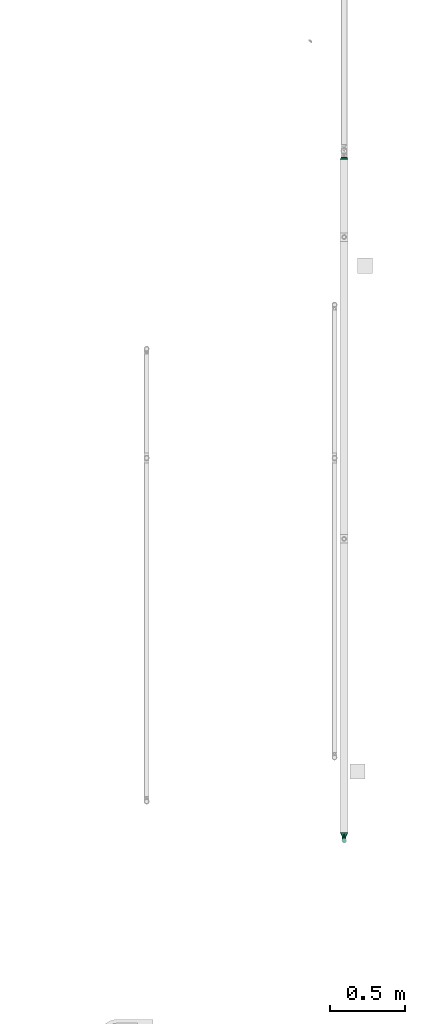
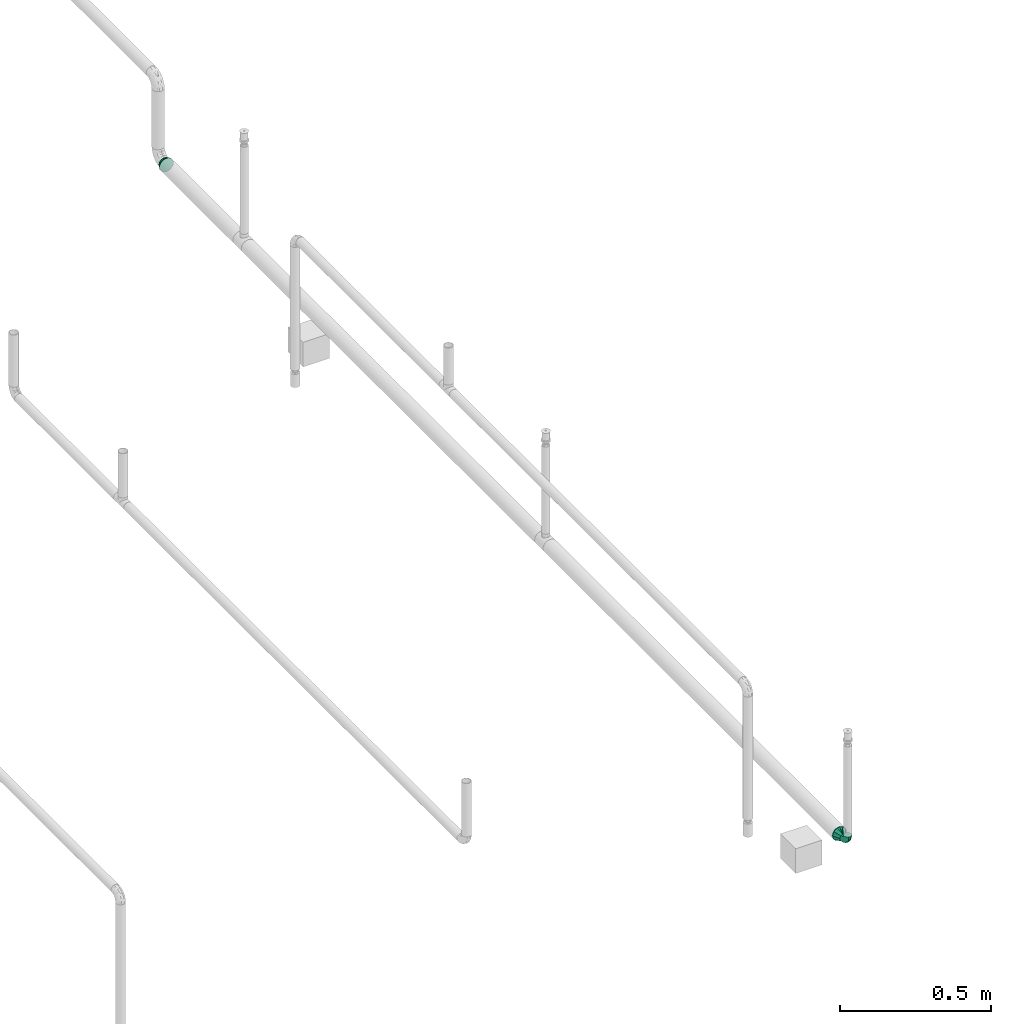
# One storey, part 89 of 95: 3 flow fittings.
"""IFC2X3 building model written with IfcOpenShell, lengths in millimetres."""

from ifc_helpers import new_model, entity, si_unit, converted_unit, derived_unit, direction, frame, origin_with_axes, place, context, subcontext, project, spatial, open_shell, surface_model, source, transform, mapped, type_object, element, save


model = new_model("IFC2X3")

# Units and contexts
model_context = context("Model", 3, precision=0.01, world=frame((0.0, 4.29681676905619e-09, 0.0)), true_north=direction((4.01073788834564e-13, 1.0)))
plan_context = context("Plan", 3, precision=0.01, world=frame((0.0, 4.29681676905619e-09, 0.0)), true_north=direction((4.01073788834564e-13, 1.0)))
body_context = subcontext(model_context, "Body", "Model", "MODEL_VIEW")
ifc_project = project(units=[converted_unit("PLANEANGLEUNIT", "DEGREE", entity("IfcPositiveLengthMeasure", 0.0174532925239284), si_unit("PLANEANGLEUNIT", "RADIAN"), dimensions=[0, 0, 0, 0, 0, 0, 0]), si_unit("AREAUNIT", "SQUARE_METRE"), si_unit("LENGTHUNIT", "METRE", prefix="MILLI"), si_unit("MASSUNIT", "GRAM", prefix="KILO"), si_unit("POWERUNIT", "WATT"), si_unit("PRESSUREUNIT", "PASCAL"), si_unit("FORCEUNIT", "NEWTON", prefix="KILO"), si_unit("ELECTRICVOLTAGEUNIT", "VOLT"), si_unit("ELECTRICCURRENTUNIT", "AMPERE"), si_unit("THERMODYNAMICTEMPERATUREUNIT", "DEGREE_CELSIUS"), si_unit("TIMEUNIT", "SECOND"), si_unit("VOLUMEUNIT", "CUBIC_METRE"), derived_unit("LINEARVELOCITYUNIT", [(si_unit("LENGTHUNIT", "METRE"), 1), (si_unit("TIMEUNIT", "SECOND"), -1)]), derived_unit("VOLUMETRICFLOWRATEUNIT", [(si_unit("VOLUMEUNIT", "CUBIC_METRE"), 1), (si_unit("TIMEUNIT", "SECOND"), -1)]), derived_unit("THERMALTRANSMITTANCEUNIT", [(si_unit("POWERUNIT", "WATT"), 1), (si_unit("THERMODYNAMICTEMPERATUREUNIT", "KELVIN"), -1), (si_unit("AREAUNIT", "SQUARE_METRE"), -1)]), derived_unit("SOUNDPRESSUREUNIT", [(si_unit("PRESSUREUNIT", "PASCAL"), 1)])], contexts=[model_context, plan_context])

# Site, building, storey
site_placement = place(None, frame((0.0, -4.29681676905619e-09, 0.0), z_axis=(0.0, 0.0, 1.0), x_axis=(1.0, 0.0, 0.0)))
site = spatial("IfcSite", under=ifc_project, at=site_placement, CompositionType="ELEMENT")
building_placement = place(site_placement, frame((0.0, 4.29681676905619e-09, 0.0), z_axis=(0.0, 0.0, 1.0), x_axis=(1.0, 0.0, 0.0)))
building = spatial("IfcBuilding", under=site, at=building_placement, Name="mc-building", CompositionType="ELEMENT")
storey_placement = place(building_placement, frame((0.0, 0.0, 210900.0), z_axis=(0.0, 0.0, 1.0), x_axis=(1.0, 0.0, 0.0)))
storey = spatial("IfcBuildingStorey", under=building, at=storey_placement, Name="Nivå F", CompositionType="ELEMENT", Elevation=210900.0)

# Flow fittings
pipe_fitting_type_1 = type_object("IfcPipeFittingType", Name="magi_pipe_fe_elbow_short_001", PredefinedType="BEND")
shared_shape_1 = source(origin_with_axes(), body_context, "Body", "SurfaceModel", [
    surface_model("IfcShellBasedSurfaceModel", [(-28.0, 3.62347, -13.52296), (-28.0, 0.0, -14.0), (-28.0, 13.52296, -3.62347), (-28.0, 7.0, -12.12436), (-28.0, 9.89949, -9.89949), (-28.0, 12.12436, -7.0), (-28.0, -9.89949, 9.89949), (-28.0, -13.52296, -3.62347), (-28.0, -7.0, -12.12436), (-28.0, -9.89949, -9.89949), (-28.0, -3.62347, -13.52296), (-28.0, -12.12436, -7.0), (-28.0, -14.0, 0.0), (-28.0, -13.52296, 3.62347), (-28.0, 13.52296, 3.62347), (-28.0, 14.0, 0.0), (-28.0, 3.62347, 13.52296), (-28.0, 12.12436, 7.0), (-28.0, 9.89949, 9.89949), (-28.0, 7.0, 12.12436), (-28.0, 0.0, 14.0), (-28.0, -12.12436, 7.0), (-28.0, -3.62347, 13.52296), (-28.0, -7.0, 12.12436), (-13.52296, 28.0, -3.62347), (0.0, 28.0, -14.0), (-3.62347, 28.0, -13.52296), (-9.89949, 28.0, -9.89949), (-7.0, 28.0, -12.12436), (-12.12436, 28.0, -7.0), (13.52296, 28.0, -3.62347), (-9.89949, 28.0, 9.89949), (3.62347, 28.0, -13.52296), (9.89949, 28.0, -9.89949), (7.0, 28.0, -12.12436), (12.12436, 28.0, -7.0), (13.52296, 28.0, 3.62347), (14.0, 28.0, 0.0), (-13.52296, 28.0, 3.62347), (-12.12436, 28.0, 7.0), (-7.0, 28.0, 12.12436), (-3.62347, 28.0, 13.52296), (9.89949, 28.0, 9.89949), (0.0, 28.0, 14.0), (12.12436, 28.0, 7.0), (7.0, 28.0, 12.12436), (3.62347, 28.0, 13.52296), (-14.0, 28.0, 0.0), (-18.74729, -12.24672, 4.38175), (-20.4978, -10.87112, 7.8554), (-14.63098, -10.41778, 0.0), (-11.36869, -10.18884, 3.09687), (5.89274, 4.32805, 4.24468), (3.06694, 4.04075, 8.35629), (-0.17293, -0.734, 7.21134), (-12.21635, -8.85831, 7.04954), (-3.77138, -5.46958, 4.31404), (-21.31549, -12.20889, 0.0), (6.34939, 11.25924, 9.57712), (8.06481, 18.3168, 10.42711), (3.37486, 10.81192, 11.64293), (-18.31681, -8.06481, 10.42711), (-20.56266, -5.29223, 12.59496), (-21.38752, -1.85462, 13.76057), (-19.60454, 2.14601, 13.97614), (-10.81192, -3.37486, 11.64293), (-13.93831, -0.12564, 13.56955), (-21.5811, 5.49074, 13.225), (-21.95612, 11.65158, 9.17996), (-20.05772, 14.63261, 6.40071), (-24.5084, 13.14639, 5.80116), (-14.41344, 20.50581, 6.33709), (-4.86565, 13.76759, 13.97488), (-10.37, 10.37, 13.65983), (-8.33631, 6.11788, 13.92788), (-14.75744, 15.63504, 9.91683), (-24.22185, 8.47816, 11.40754), (-3.65439, 9.37683, 13.74657), (-6.95631, 2.56833, 13.07318), (-1.43023, 7.56381, 12.86583), (-23.31553, 14.32852, 3.52781), (-21.69779, 16.61046, 0.0), (-5.22595, 24.14907, 13.1135), (-1.91876, 20.94202, 13.96561), (5.29223, 20.56266, 12.59496), (-4.80832, -3.33944, 8.67628), (-2.5008, 2.5008, 11.44619), (1.85462, 21.38752, 13.76057), (10.87112, 20.4978, 7.8554), (8.85831, 12.21635, 7.04954), (12.24672, 18.74729, 4.38175), (-11.25924, -6.34939, 9.57712), (-15.37363, 21.10999, 3.25616), (-19.14983, 16.6358, 3.33834), (10.18884, 11.36869, 3.09687), (10.41778, 14.63098, 0.0), (12.20889, 21.31549, 0.0), (-18.10051, 18.10051, 0.0), (8.37307, 7.0, 0.0), (-11.50288, 18.59955, 10.71326), (-8.84699, 21.68272, 11.60426), (-11.55739, 22.32322, 9.13967), (-10.58943, 15.13428, 12.47628), (-6.05474, 18.97034, 13.33304), (-14.9522, 12.56273, 11.63436), (-7.0, -8.37307, 0.0), (-15.38425, 5.99686, 13.74946), (-13.73768, 3.4306, 13.99403), (-14.88363, 9.49937, 12.94918), (-8.15523, 14.5327, 13.41132), (0.12564, 13.93831, 13.56955), (-19.27864, 9.50344, 11.78944), (-1.06605, 0.88351, 9.56863), (-3.83005, -4.31684, 6.58349), (-3.15673, -4.5298, 0.0), (1.6378, -1.17307, 3.37596), (-16.61046, 21.69779, 0.0), (4.5298, 3.15673, 0.0), (0.68653, -0.68653, 0.0), (-22.16307, 1.77021, -13.95443), (-12.1112, 20.49304, -9.34219), (-20.84882, -12.5942, -4.60988), (-21.54235, 5.49691, -13.22664), (-19.10898, 16.60593, -3.53067), (-11.43732, -3.53319, -11.74569), (-12.15681, -0.17464, -13.31564), (-5.62502, -0.23427, -11.47155), (-20.32556, 9.17949, -11.70878), (-22.13531, 11.60457, -9.16028), (8.41708, 20.6911, -10.6019), (-16.88435, 12.82951, -10.55878), (-11.13704, -10.24959, -2.34743), (-4.84185, -6.54661, -3.36137), (-12.96604, 16.27159, -10.78023), (-9.97005, 17.11892, -12.15817), (-12.93887, 12.93887, -12.29249), (-1.2334, -2.64201, -5.92074), (1.22973, 2.47088, -8.8979), (5.16596, 4.11707, -5.50974), (-13.82252, 8.10203, -13.53774), (-19.77353, -10.77046, -7.78839), (-20.6911, -8.41708, -10.6019), (-5.71492, 20.3686, -13.27579), (12.5942, 20.84882, -4.60988), (-23.64458, -5.51923, -12.7416), (-12.09227, -8.27186, -7.82819), (-10.45313, -5.71095, -9.79365), (0.58937, 6.57638, -11.67536), (0.17464, 12.15681, -13.31564), (2.89353, 11.95196, -12.23037), (-23.72828, 14.45075, -2.39672), (-13.72718, 22.21732, -6.10198), (-14.65489, 22.72001, -3.11815), (10.77046, 19.77353, -7.78839), (-4.94234, 4.94234, -13.21976), (-17.01297, 16.64546, -6.86733), (-1.77021, 22.16307, -13.95443), (-8.78719, 21.97882, -11.58143), (1.76523, 20.62648, -13.74402), (5.51923, 23.64458, -12.7416), (-20.62648, -1.76523, -13.74402), (-17.72962, -4.83155, -12.45127), (-3.30956, 15.42318, -13.99698), (-7.57019, 8.16927, -13.99205), (-8.28388, 13.27199, -13.5833), (-6.87455, -6.54348, -6.32219), (9.88737, 10.40056, -2.49707), (6.89392, 5.1145, -2.73992), (0.30381, -2.5875, -3.00478), (-22.38273, 13.76108, -5.90633), (9.77824, 12.19087, -5.31295), (8.70689, 13.51955, -8.04189), (5.71095, 10.45313, -9.79365), (4.83155, 17.72962, -12.45127), (-4.06757, -2.72494, -8.72853), (6.23857, 7.82545, -7.6266), (-15.42318, 3.30956, -13.99698), (-16.05025, 23.05025, 0.0), (-12.19087, -9.77824, -5.31295), (3.79914, 1.24839, -3.50098), (-15.61294, 15.85577, -9.08381)], [open_shell([[[0, 1, 2]], [[3, 0, 4]], [[2, 5, 4]], [[0, 2, 4]], [[6, 1, 7]], [[8, 9, 10]], [[9, 1, 10]], [[11, 7, 9]], [[9, 7, 1]], [[12, 13, 7]], [[2, 1, 6]], [[14, 15, 16]], [[17, 14, 18]], [[16, 19, 18]], [[14, 16, 18]], [[20, 16, 15]], [[21, 6, 13]], [[6, 7, 13]], [[22, 20, 23]], [[6, 23, 20]], [[2, 6, 20]], [[15, 2, 20]], [[24, 25, 26]], [[27, 26, 28]], [[27, 29, 24]], [[27, 24, 26]], [[30, 25, 31]], [[32, 33, 34]], [[32, 25, 33]], [[33, 30, 35]], [[25, 30, 33]], [[30, 36, 37]], [[31, 25, 24]], [[24, 38, 31]], [[31, 38, 39]], [[31, 40, 41]], [[31, 42, 30]], [[41, 43, 31]], [[36, 42, 44]], [[30, 42, 36]], [[45, 43, 46]], [[43, 45, 42]], [[31, 43, 42]], [[24, 47, 38]], [[48, 49, 21]], [[48, 50, 51]], [[52, 53, 54]], [[55, 51, 56]], [[49, 6, 21]], [[57, 48, 13]], [[58, 59, 60]], [[61, 23, 6]], [[61, 62, 23]], [[20, 63, 64]], [[62, 65, 66]], [[59, 42, 45]], [[20, 22, 63]], [[67, 19, 16]], [[68, 69, 70]], [[39, 38, 71]], [[72, 73, 74]], [[69, 68, 75]], [[20, 64, 16]], [[19, 76, 18]], [[17, 18, 68]], [[77, 78, 79]], [[80, 81, 15]], [[41, 82, 83]], [[45, 84, 59]], [[85, 86, 65]], [[46, 43, 87]], [[88, 89, 90]], [[91, 65, 61]], [[43, 41, 83]], [[71, 92, 93]], [[90, 94, 95]], [[84, 45, 46]], [[88, 90, 44]], [[59, 84, 60]], [[36, 44, 90]], [[75, 71, 69]], [[23, 62, 22]], [[90, 96, 36]], [[97, 81, 93]], [[94, 98, 95]], [[92, 97, 93]], [[50, 48, 57]], [[70, 14, 17]], [[99, 100, 101]], [[31, 101, 100]], [[40, 31, 100]], [[102, 103, 100]], [[103, 72, 83]], [[82, 100, 103]], [[82, 41, 40]], [[99, 104, 102]], [[15, 14, 80]], [[67, 16, 64]], [[51, 50, 105]], [[48, 21, 13]], [[49, 55, 61]], [[44, 42, 88]], [[89, 52, 94]], [[106, 107, 74]], [[108, 67, 106]], [[31, 39, 101]], [[109, 102, 73]], [[103, 109, 72]], [[87, 83, 110]], [[76, 68, 18]], [[68, 111, 104]], [[65, 62, 61]], [[63, 62, 66]], [[91, 61, 55]], [[65, 86, 78]], [[87, 84, 46]], [[110, 79, 60]], [[110, 60, 84]], [[86, 112, 60]], [[55, 49, 48]], [[61, 6, 49]], [[42, 59, 88]], [[89, 88, 59]], [[106, 67, 64]], [[76, 67, 111]], [[53, 52, 89]], [[112, 86, 85]], [[56, 113, 55]], [[112, 54, 53]], [[58, 89, 59]], [[56, 51, 105]], [[114, 115, 56]], [[14, 70, 80]], [[69, 71, 93]], [[47, 116, 92]], [[92, 116, 97]], [[39, 71, 101]], [[75, 101, 71]], [[99, 102, 100]], [[108, 104, 111]], [[106, 74, 73]], [[110, 83, 72]], [[78, 74, 66]], [[72, 74, 77]], [[83, 87, 43]], [[84, 87, 110]], [[62, 63, 22]], [[64, 63, 66]], [[13, 12, 57]], [[96, 90, 95]], [[96, 37, 36]], [[115, 117, 52]], [[56, 105, 114]], [[55, 48, 51]], [[89, 94, 90]], [[52, 98, 94]], [[106, 64, 107]], [[108, 106, 73]], [[102, 108, 73]], [[67, 108, 111]], [[102, 104, 108]], [[68, 104, 75]], [[64, 66, 107]], [[66, 74, 107]], [[65, 78, 66]], [[79, 78, 86]], [[60, 79, 86]], [[77, 79, 110]], [[72, 77, 110]], [[78, 77, 74]], [[67, 76, 19]], [[68, 76, 111]], [[100, 82, 40]], [[83, 82, 103]], [[68, 70, 17]], [[80, 69, 93]], [[69, 80, 70]], [[80, 93, 81]], [[55, 85, 91]], [[85, 65, 91]], [[60, 53, 58]], [[53, 89, 58]], [[54, 112, 85]], [[60, 112, 53]], [[85, 113, 54]], [[113, 115, 54]], [[55, 113, 85]], [[115, 113, 56]], [[71, 38, 92]], [[115, 114, 118]], [[47, 92, 38]], [[101, 75, 99]], [[99, 75, 104]], [[72, 109, 73]], [[103, 102, 109]], [[54, 115, 52]], [[117, 115, 118]], [[117, 98, 52]], [[0, 119, 1]], [[29, 27, 120]], [[121, 57, 7]], [[3, 122, 0]], [[97, 123, 81]], [[124, 125, 126]], [[127, 4, 128]], [[33, 129, 34]], [[127, 128, 130]], [[131, 132, 105]], [[133, 134, 135]], [[127, 3, 4]], [[136, 137, 138]], [[139, 122, 127]], [[4, 5, 128]], [[11, 140, 121]], [[141, 140, 9]], [[26, 142, 28]], [[95, 143, 96]], [[144, 8, 10]], [[145, 141, 146]], [[30, 37, 96]], [[147, 148, 149]], [[140, 11, 9]], [[15, 81, 150]], [[130, 133, 135]], [[151, 152, 24]], [[153, 35, 143]], [[147, 154, 148]], [[24, 29, 151]], [[120, 155, 151]], [[33, 153, 129]], [[25, 156, 26]], [[26, 156, 142]], [[143, 35, 30]], [[27, 28, 157]], [[123, 152, 155]], [[158, 32, 159]], [[144, 160, 161]], [[122, 3, 127]], [[148, 162, 158]], [[157, 28, 142]], [[162, 163, 164]], [[159, 32, 34]], [[165, 136, 132]], [[35, 153, 33]], [[166, 98, 167]], [[160, 10, 1]], [[161, 160, 125]], [[95, 166, 143]], [[50, 131, 105]], [[121, 7, 11]], [[168, 114, 132]], [[150, 169, 2]], [[167, 98, 117]], [[32, 158, 25]], [[164, 142, 162]], [[133, 157, 134]], [[9, 8, 141]], [[165, 145, 146]], [[170, 171, 153]], [[129, 172, 173]], [[126, 137, 174]], [[175, 137, 172]], [[148, 158, 173]], [[156, 158, 162]], [[149, 172, 147]], [[148, 154, 163]], [[119, 160, 1]], [[176, 163, 125]], [[176, 125, 160]], [[125, 154, 126]], [[169, 128, 5]], [[127, 130, 135]], [[139, 127, 135]], [[119, 122, 176]], [[120, 151, 29]], [[152, 97, 177]], [[142, 164, 134]], [[120, 27, 157]], [[152, 47, 24]], [[81, 123, 150]], [[123, 155, 169]], [[152, 123, 97]], [[140, 178, 121]], [[121, 178, 131]], [[144, 141, 8]], [[146, 141, 161]], [[30, 96, 143]], [[170, 153, 143]], [[129, 153, 171]], [[159, 129, 173]], [[137, 147, 172]], [[126, 154, 147]], [[172, 171, 175]], [[174, 137, 136]], [[137, 126, 147]], [[126, 146, 124]], [[117, 118, 179]], [[179, 138, 167]], [[128, 169, 155]], [[5, 2, 169]], [[57, 121, 50]], [[57, 12, 7]], [[122, 119, 0]], [[160, 119, 176]], [[158, 156, 25]], [[142, 156, 162]], [[162, 148, 163]], [[139, 135, 164]], [[125, 163, 154]], [[139, 163, 176]], [[163, 139, 164]], [[122, 139, 176]], [[155, 180, 128]], [[180, 120, 133]], [[180, 133, 130]], [[157, 133, 120]], [[142, 134, 157]], [[164, 135, 134]], [[128, 180, 130]], [[120, 180, 155]], [[152, 151, 155]], [[47, 152, 177]], [[169, 150, 123]], [[15, 150, 2]], [[121, 131, 50]], [[178, 165, 132]], [[178, 132, 131]], [[168, 132, 136]], [[145, 165, 178]], [[174, 165, 146]], [[178, 140, 145]], [[141, 145, 140]], [[179, 136, 138]], [[170, 166, 167]], [[168, 179, 118]], [[170, 167, 138]], [[143, 166, 170]], [[95, 98, 166]], [[117, 179, 167]], [[136, 179, 168]], [[129, 159, 34]], [[158, 159, 173]], [[160, 144, 10]], [[141, 144, 161]], [[175, 170, 138]], [[129, 171, 172]], [[170, 175, 171]], [[137, 175, 138]], [[148, 173, 149]], [[172, 149, 173]], [[165, 174, 136]], [[126, 174, 146]], [[146, 161, 124]], [[125, 124, 161]], [[114, 168, 118]], [[114, 105, 132]]])]),
])
flow_fitting_1_placement = place(storey_placement, frame((535962.24677, 443656.17841, 3990.42676999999), z_axis=(-1.0, 0.0, 0.0), x_axis=(0.0, -1.0, 0.0)))
element("IfcFlowFitting", 1, at=flow_fitting_1_placement, inside=storey, type_object=pipe_fitting_type_1, Name="magi_pipe_fe_elbow_short_001", context=body_context, shape_type="MappedRepresentation", body=[
    mapped(shared_shape_1, transform((0.0, 0.0, 0.0), scale=1.0)),
])
pipe_fitting_type_2 = type_object("IfcPipeFittingType", Name="magi_pipe_fe_reducer_centric_short_001", PredefinedType="TRANSITION")
shared_shape_2 = source(origin_with_axes(), body_context, "Body", "SurfaceModel", [
    surface_model("IfcShellBasedSurfaceModel", [(-2.0, 6.98811, 26.08), (-2.0, -6.98811, 26.08), (-2.0, 0.0, 27.0), (-2.0, 19.09188, 19.09188), (-2.0, 13.5, 23.38269), (-2.0, 23.38269, 13.5), (-2.0, 26.08, 6.98811), (-2.0, -19.09188, 19.09188), (-2.0, -13.5, 23.38269), (-2.0, -26.08, 6.98811), (-2.0, -23.38269, 13.5), (-2.0, -13.5, -23.38269), (-2.0, -26.08, -6.98811), (-2.0, -27.0, 0.0), (-2.0, 6.98811, -26.08), (-2.0, 26.08, -6.98811), (-2.0, 23.38269, -13.5), (-2.0, 19.09188, -19.09188), (-2.0, 13.5, -23.38269), (-2.0, -23.38269, -13.5), (-2.0, -19.09188, -19.09188), (-2.0, -6.98811, -26.08), (-2.0, 0.0, -27.0), (-2.0, 27.0, 0.0), (0.0, 6.98811, -26.08), (0.0, 13.5, -23.38269), (0.0, 19.09188, -19.09188), (0.0, 26.08, 6.98811), (0.0, 23.38269, -13.5), (0.0, 26.08, -6.98811), (0.0, -26.08, 6.98811), (0.0, -13.5, -23.38269), (0.0, -6.98811, -26.08), (0.0, 0.0, -27.0), (0.0, -23.38269, -13.5), (0.0, -19.09188, -19.09188), (0.0, -26.08, -6.98811), (0.0, 27.0, 0.0), (0.0, 23.38269, 13.5), (0.0, 19.09188, 19.09188), (0.0, 6.98811, 26.08), (0.0, 13.5, 23.38269), (0.0, 0.0, 27.0), (0.0, -19.09188, 19.09188), (0.0, -23.38269, 13.5), (0.0, -27.0, 0.0), (0.0, -6.98811, 26.08), (0.0, -13.5, 23.38269), (0.0, 21.84346, 15.8702), (0.0, 8.34346, -25.67853), (0.0, -8.34346, -25.67853), (28.0, 3.62347, -13.52296), (28.0, 7.0, -12.12436), (28.0, 9.89949, -9.89949), (28.0, 12.12436, -7.0), (28.0, 13.52296, -3.62347), (28.0, -7.0, -12.12436), (28.0, -12.12436, -7.0), (28.0, 14.0, 0.0), (28.0, 0.0, -14.0), (28.0, -3.62347, -13.52296), (28.0, -9.89949, -9.89949), (28.0, -13.52296, -3.62347), (28.0, 13.52296, 3.62347), (28.0, 12.12436, 7.0), (28.0, 9.89949, 9.89949), (28.0, 0.0, 14.0), (28.0, 3.62347, 13.52296), (28.0, 7.0, 12.12436), (28.0, -3.62347, 13.52296), (28.0, -13.52296, 3.62347), (28.0, -9.89949, 9.89949), (28.0, -12.12436, 7.0), (28.0, -14.0, 0.0), (28.0, -7.0, 12.12436), (26.0, 9.89949, 9.89949), (26.0, 0.0, 14.0), (26.0, 3.62347, 13.52296), (26.0, 7.0, 12.12436), (26.0, 12.12436, 7.0), (26.0, 13.52296, 3.62347), (26.0, -14.0, 0.0), (26.0, -12.12436, -7.0), (26.0, -3.62347, 13.52296), (26.0, -9.89949, 9.89949), (26.0, -7.0, 12.12436), (26.0, -13.52296, 3.62347), (26.0, -12.12436, 7.0), (26.0, 13.52296, -3.62347), (26.0, 3.62347, -13.52296), (26.0, 12.12436, -7.0), (26.0, 9.89949, -9.89949), (26.0, 7.0, -12.12436), (26.0, 0.0, -14.0), (26.0, -7.0, -12.12436), (26.0, -9.89949, -9.89949), (26.0, -13.52296, -3.62347), (26.0, -3.62347, -13.52296), (26.0, 14.0, 0.0), (0.0, 8.34346, 25.67853), (0.0, -21.84346, 15.8702), (0.0, -8.34346, 25.67853), (0.0, 21.84346, -15.8702), (0.0, -21.84346, -15.8702), (26.0, -10.92462, -7.42462), (0.0, 15.09346, -20.77436), (26.0, -11.94975, -4.94975), (0.0, -24.42173, -7.9351), (0.0, -23.1326, -11.90265), (26.0, 7.42462, -10.92462), (26.0, 4.94975, -11.94975), (0.0, 0.0, -25.67853), (26.0, -2.47487, -12.97487), (26.0, 11.94975, -4.94975), (26.0, 10.92462, -7.42462), (26.0, 2.47487, -12.97487), (26.0, -12.97487, -2.47487), (0.0, -15.09346, -20.77436), (26.0, -4.94975, -11.94975), (26.0, -7.42462, -10.92462), (26.0, 12.97487, -2.47487), (0.0, 24.42173, -7.9351), (26.0, 10.92462, 7.42462), (0.0, -15.09346, 20.77436), (26.0, 11.94975, 4.94975), (0.0, 24.42173, 7.9351), (0.0, 23.1326, 11.90265), (26.0, -7.42462, 10.92462), (26.0, -4.94975, 11.94975), (0.0, 0.0, 25.67853), (26.0, 2.47487, 12.97487), (26.0, -11.94975, 4.94975), (26.0, -10.92462, 7.42462), (26.0, -2.47487, 12.97487), (26.0, 12.97487, 2.47487), (0.0, 15.09346, 20.77436), (26.0, 4.94975, 11.94975), (26.0, 7.42462, 10.92462), (26.0, -12.97487, 2.47487), (0.0, -24.42173, 7.9351)], [open_shell([[[0, 1, 2]], [[3, 0, 4]], [[3, 5, 6]], [[0, 3, 7]], [[6, 7, 3]], [[1, 7, 8]], [[1, 0, 7]], [[7, 9, 10]], [[7, 11, 9]], [[9, 12, 13]], [[14, 7, 6]], [[15, 16, 6]], [[16, 17, 6]], [[17, 18, 14]], [[14, 6, 17]], [[7, 14, 11]], [[19, 11, 20]], [[11, 19, 12]], [[14, 21, 11]], [[12, 9, 11]], [[22, 21, 14]], [[6, 23, 15]], [[24, 25, 26]], [[27, 24, 26]], [[27, 28, 29]], [[27, 26, 28]], [[30, 31, 24]], [[24, 32, 33]], [[24, 31, 32]], [[31, 34, 35]], [[34, 31, 36]], [[31, 30, 36]], [[37, 27, 29]], [[27, 38, 39]], [[27, 39, 40]], [[27, 40, 30]], [[40, 39, 41]], [[30, 40, 42]], [[30, 43, 44]], [[45, 36, 30]], [[43, 46, 47]], [[43, 30, 42]], [[46, 43, 42]], [[30, 24, 27]], [[12, 36, 13]], [[19, 34, 12]], [[31, 20, 11]], [[19, 20, 35]], [[32, 11, 21]], [[12, 34, 36]], [[36, 45, 13]], [[32, 31, 11]], [[35, 20, 31]], [[35, 34, 19]], [[33, 32, 21]], [[21, 22, 33]], [[14, 24, 22]], [[18, 25, 14]], [[28, 17, 16]], [[18, 17, 26]], [[29, 16, 15]], [[18, 26, 25]], [[25, 24, 14]], [[37, 29, 15]], [[28, 16, 29]], [[28, 26, 17]], [[23, 37, 15]], [[22, 24, 33]], [[6, 27, 23]], [[5, 38, 6]], [[41, 3, 4]], [[5, 3, 39]], [[40, 4, 0]], [[6, 38, 27]], [[27, 37, 23]], [[40, 41, 4]], [[39, 3, 41]], [[39, 38, 5]], [[42, 40, 0]], [[0, 2, 42]], [[1, 46, 2]], [[8, 47, 1]], [[44, 7, 10]], [[8, 7, 43]], [[30, 10, 9]], [[8, 43, 47]], [[47, 46, 1]], [[45, 30, 9]], [[44, 10, 30]], [[44, 43, 7]], [[13, 45, 9]], [[2, 46, 42]], [[48, 49, 45]], [[45, 49, 50]], [[51, 52, 53]], [[51, 53, 54]], [[51, 55, 56]], [[55, 51, 54]], [[57, 55, 58]], [[59, 56, 60]], [[59, 51, 56]], [[56, 57, 61]], [[55, 57, 56]], [[58, 62, 57]], [[58, 63, 62]], [[63, 64, 65]], [[63, 65, 66]], [[67, 66, 65]], [[67, 65, 68]], [[63, 66, 69]], [[70, 71, 72]], [[69, 70, 73]], [[71, 69, 74]], [[69, 71, 70]], [[73, 63, 69]], [[63, 73, 62]], [[75, 76, 77]], [[75, 77, 78]], [[75, 79, 80]], [[75, 80, 76]], [[81, 76, 82]], [[83, 84, 85]], [[84, 83, 86]], [[84, 86, 87]], [[86, 83, 81]], [[83, 76, 81]], [[76, 80, 82]], [[82, 80, 88]], [[89, 88, 90]], [[91, 92, 89]], [[91, 89, 90]], [[93, 88, 89]], [[82, 94, 95]], [[96, 81, 82]], [[94, 93, 97]], [[94, 82, 88]], [[93, 94, 88]], [[80, 98, 88]], [[96, 62, 81]], [[82, 57, 96]], [[56, 95, 94]], [[82, 95, 61]], [[60, 94, 97]], [[96, 57, 62]], [[62, 73, 81]], [[60, 56, 94]], [[61, 95, 56]], [[61, 57, 82]], [[59, 60, 97]], [[97, 93, 59]], [[89, 51, 93]], [[92, 52, 89]], [[54, 91, 90]], [[92, 91, 53]], [[55, 90, 88]], [[92, 53, 52]], [[52, 51, 89]], [[58, 55, 88]], [[54, 90, 55]], [[54, 53, 91]], [[98, 58, 88]], [[93, 51, 59]], [[80, 63, 98]], [[79, 64, 80]], [[68, 75, 78]], [[79, 75, 65]], [[67, 78, 77]], [[80, 64, 63]], [[63, 58, 98]], [[67, 68, 78]], [[65, 75, 68]], [[65, 64, 79]], [[66, 67, 77]], [[77, 76, 66]], [[83, 69, 76]], [[85, 74, 83]], [[72, 84, 87]], [[85, 84, 71]], [[70, 87, 86]], [[85, 71, 74]], [[74, 69, 83]], [[73, 70, 86]], [[72, 87, 70]], [[72, 71, 84]], [[81, 73, 86]], [[76, 69, 66]], [[76, 84, 98]], [[98, 75, 76]], [[84, 93, 98]], [[95, 93, 84]], [[91, 98, 93]], [[84, 81, 95]], [[99, 48, 100]], [[99, 100, 101]], [[100, 48, 45]], [[48, 102, 49]], [[50, 103, 45]], [[102, 48, 37]], [[103, 95, 104]], [[105, 102, 91]], [[106, 107, 108]], [[105, 109, 110]], [[111, 112, 50]], [[102, 113, 114]], [[111, 115, 93]], [[114, 91, 102]], [[110, 49, 105]], [[49, 110, 115]], [[45, 116, 81]], [[95, 103, 117]], [[117, 118, 119]], [[45, 107, 116]], [[37, 120, 121]], [[49, 115, 111]], [[112, 118, 50]], [[112, 111, 93]], [[113, 102, 121]], [[120, 37, 98]], [[106, 116, 107]], [[103, 104, 108]], [[104, 106, 108]], [[105, 91, 109]], [[118, 117, 50]], [[119, 95, 117]], [[120, 113, 121]], [[48, 75, 122]], [[123, 100, 84]], [[124, 125, 126]], [[123, 127, 128]], [[129, 130, 99]], [[100, 131, 132]], [[129, 133, 76]], [[132, 84, 100]], [[128, 101, 123]], [[101, 128, 133]], [[37, 134, 98]], [[75, 48, 135]], [[135, 136, 137]], [[37, 125, 134]], [[45, 138, 139]], [[101, 133, 129]], [[130, 136, 99]], [[130, 129, 76]], [[131, 100, 139]], [[138, 45, 81]], [[124, 134, 125]], [[48, 122, 126]], [[122, 124, 126]], [[123, 84, 127]], [[136, 135, 99]], [[137, 75, 135]], [[138, 131, 139]]])]),
])
flow_fitting_2_placement = place(storey_placement, frame((535962.24677, 443710.17841, 3990.42676999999), z_axis=(0.0, 0.0, 1.0), x_axis=(0.0, -1.0, 0.0)))
element("IfcFlowFitting", 2, at=flow_fitting_2_placement, inside=storey, type_object=pipe_fitting_type_2, Name="magi_pipe_fe_reducer_centric_short_001", context=body_context, shape_type="MappedRepresentation", body=[
    mapped(shared_shape_2, transform((0.0, 0.0, 0.0), scale=1.0)),
])
shared_shape_3 = source(origin_with_axes(), body_context, "Body", "SurfaceModel", [
    surface_model("IfcShellBasedSurfaceModel", [(-2.0, 6.98811, 26.08), (-2.0, -6.98811, 26.08), (-2.0, 0.0, 27.0), (-2.0, 19.09188, 19.09188), (-2.0, 13.5, 23.38269), (-2.0, 23.38269, 13.5), (-2.0, 26.08, 6.98811), (-2.0, -19.09188, 19.09188), (-2.0, -13.5, 23.38269), (-2.0, -26.08, 6.98811), (-2.0, -23.38269, 13.5), (-2.0, -13.5, -23.38269), (-2.0, -26.08, -6.98811), (-2.0, -27.0, 0.0), (-2.0, 6.98811, -26.08), (-2.0, 26.08, -6.98811), (-2.0, 23.38269, -13.5), (-2.0, 19.09188, -19.09188), (-2.0, 13.5, -23.38269), (-2.0, -23.38269, -13.5), (-2.0, -19.09188, -19.09188), (-2.0, -6.98811, -26.08), (-2.0, 0.0, -27.0), (-2.0, 27.0, 0.0), (0.0, 6.98811, -26.08), (0.0, 13.5, -23.38269), (0.0, 19.09188, -19.09188), (0.0, 26.08, 6.98811), (0.0, 23.38269, -13.5), (0.0, 26.08, -6.98811), (0.0, -26.08, 6.98811), (0.0, -13.5, -23.38269), (0.0, -6.98811, -26.08), (0.0, 0.0, -27.0), (0.0, -23.38269, -13.5), (0.0, -19.09188, -19.09188), (0.0, -26.08, -6.98811), (0.0, 27.0, 0.0), (0.0, 23.38269, 13.5), (0.0, 19.09188, 19.09188), (0.0, 6.98811, 26.08), (0.0, 13.5, 23.38269), (0.0, 0.0, 27.0), (0.0, -19.09188, 19.09188), (0.0, -23.38269, 13.5), (0.0, -27.0, 0.0), (0.0, -6.98811, 26.08), (0.0, -13.5, 23.38269), (0.0, 8.34346, 25.67853), (0.0, 21.84346, 15.8702), (0.0, -8.34346, 25.67853), (0.0, -21.84346, 15.8702), (0.0, 8.34346, -25.67853), (0.0, -8.34346, -25.67853), (0.0, 21.84346, -15.8702), (0.0, -21.84346, -15.8702), (13.6, 10.6, -18.35974), (13.6, 0.0, -21.2), (13.6, 5.48696, -20.47763), (13.6, 20.47763, -5.48696), (13.6, 14.99066, -14.99066), (13.6, -21.2, 0.0), (13.6, -14.99066, -14.99066), (13.6, 18.35974, -10.6), (13.6, -10.6, -18.35974), (13.6, -5.48696, -20.47763), (13.6, -18.35974, -10.6), (13.6, -20.47763, -5.48696), (13.6, -18.35974, 10.6), (13.6, 21.2, 0.0), (13.6, 20.47763, 5.48696), (13.6, 18.35974, 10.6), (13.6, 14.99066, 14.99066), (13.6, 0.0, 21.2), (13.6, 10.6, 18.35974), (13.6, 5.48696, 20.47763), (13.6, -14.99066, 14.99066), (13.6, -20.47763, 5.48696), (13.6, -5.48696, 20.47763), (13.6, -10.6, 18.35974), (11.6, 0.0, 21.2), (11.6, 5.48696, 20.47763), (11.6, 10.6, 18.35974), (11.6, 14.99066, 14.99066), (11.6, 18.35974, 10.6), (11.6, 20.47763, 5.48696), (11.6, -21.2, 0.0), (11.6, -14.99066, -14.99066), (11.6, -5.48696, 20.47763), (11.6, -14.99066, 14.99066), (11.6, -10.6, 18.35974), (11.6, -18.35974, 10.6), (11.6, -20.47763, 5.48696), (11.6, 20.47763, -5.48696), (11.6, 10.6, -18.35974), (11.6, 14.99066, -14.99066), (11.6, 18.35974, -10.6), (11.6, 5.48696, -20.47763), (11.6, 0.0, -21.2), (11.6, -18.35974, -10.6), (11.6, -20.47763, -5.48696), (11.6, -10.6, -18.35974), (11.6, -5.48696, -20.47763), (11.6, 21.2, 0.0), (11.6, -6.55116, 20.1624), (11.6, -17.15116, 12.46105), (11.6, 17.15116, 12.46105), (11.6, 6.55116, 20.1624), (11.6, -6.55116, -20.1624), (11.6, -17.15116, -12.46105), (11.6, 6.55116, -20.1624), (11.6, 17.15116, -12.46105), (11.6, 11.85116, -16.31172), (0.0, 15.09346, -20.77436), (0.0, 24.42173, -7.9351), (11.6, 19.17558, -6.23052), (0.0, -24.63354, -7.28321), (11.6, 0.0, -20.1624), (0.0, 0.0, -25.67853), (11.6, -19.17558, -6.23052), (0.0, -15.09346, -20.77436), (11.6, -11.85116, -16.31172), (11.6, -11.85116, 16.31172), (0.0, -15.09346, 20.77436), (0.0, -24.42173, 7.9351), (11.6, -19.17558, 6.23052), (0.0, 24.63354, 7.28321), (11.6, 0.0, 20.1624), (0.0, 0.0, 25.67853), (11.6, 19.17558, 6.23052), (0.0, 15.09346, 20.77436), (11.6, 11.85116, 16.31172)], [open_shell([[[0, 1, 2]], [[3, 0, 4]], [[3, 5, 6]], [[0, 3, 7]], [[6, 7, 3]], [[1, 7, 8]], [[1, 0, 7]], [[7, 9, 10]], [[7, 11, 9]], [[9, 12, 13]], [[14, 7, 6]], [[15, 16, 6]], [[16, 17, 6]], [[17, 18, 14]], [[14, 6, 17]], [[7, 14, 11]], [[19, 11, 20]], [[11, 19, 12]], [[14, 21, 11]], [[12, 9, 11]], [[22, 21, 14]], [[6, 23, 15]], [[24, 25, 26]], [[27, 24, 26]], [[27, 28, 29]], [[27, 26, 28]], [[30, 31, 24]], [[24, 32, 33]], [[24, 31, 32]], [[31, 34, 35]], [[34, 31, 36]], [[31, 30, 36]], [[37, 27, 29]], [[27, 38, 39]], [[27, 39, 40]], [[27, 40, 30]], [[40, 39, 41]], [[30, 40, 42]], [[30, 43, 44]], [[45, 36, 30]], [[43, 46, 47]], [[43, 30, 42]], [[46, 43, 42]], [[30, 24, 27]], [[12, 36, 13]], [[19, 34, 12]], [[31, 20, 11]], [[19, 20, 35]], [[32, 11, 21]], [[12, 34, 36]], [[36, 45, 13]], [[32, 31, 11]], [[35, 20, 31]], [[35, 34, 19]], [[33, 32, 21]], [[21, 22, 33]], [[14, 24, 22]], [[18, 25, 14]], [[28, 17, 16]], [[18, 17, 26]], [[29, 16, 15]], [[18, 26, 25]], [[25, 24, 14]], [[37, 29, 15]], [[28, 16, 29]], [[28, 26, 17]], [[23, 37, 15]], [[22, 24, 33]], [[6, 27, 23]], [[5, 38, 6]], [[41, 3, 4]], [[5, 3, 39]], [[40, 4, 0]], [[6, 38, 27]], [[27, 37, 23]], [[40, 41, 4]], [[39, 3, 41]], [[39, 38, 5]], [[42, 40, 0]], [[0, 2, 42]], [[1, 46, 2]], [[8, 47, 1]], [[44, 7, 10]], [[8, 7, 43]], [[30, 10, 9]], [[8, 43, 47]], [[47, 46, 1]], [[45, 30, 9]], [[44, 10, 30]], [[44, 43, 7]], [[13, 45, 9]], [[2, 46, 42]], [[48, 49, 50]], [[50, 45, 51]], [[45, 50, 49]], [[49, 52, 45]], [[45, 52, 53]], [[49, 54, 52]], [[53, 55, 45]], [[54, 49, 37]], [[56, 57, 58]], [[59, 56, 60]], [[61, 62, 56]], [[59, 60, 63]], [[59, 61, 56]], [[57, 64, 65]], [[57, 56, 64]], [[66, 61, 67]], [[64, 56, 62]], [[66, 62, 61]], [[68, 59, 69]], [[70, 71, 72]], [[70, 72, 73]], [[74, 75, 73]], [[74, 73, 72]], [[70, 73, 76]], [[61, 68, 77]], [[59, 68, 61]], [[76, 78, 79]], [[68, 70, 76]], [[73, 78, 76]], [[68, 69, 70]], [[80, 81, 82]], [[80, 82, 83]], [[83, 84, 85]], [[83, 85, 80]], [[86, 80, 87]], [[88, 89, 90]], [[88, 80, 89]], [[91, 86, 92]], [[86, 91, 89]], [[80, 86, 89]], [[80, 85, 87]], [[85, 93, 94]], [[95, 93, 96]], [[87, 85, 94]], [[94, 93, 95]], [[97, 98, 94]], [[86, 99, 100]], [[87, 99, 86]], [[101, 98, 102]], [[101, 87, 94]], [[98, 101, 94]], [[93, 85, 103]], [[100, 67, 86]], [[99, 66, 100]], [[64, 87, 101]], [[99, 87, 62]], [[65, 101, 102]], [[100, 66, 67]], [[67, 61, 86]], [[65, 64, 101]], [[62, 87, 64]], [[62, 66, 99]], [[57, 65, 102]], [[102, 98, 57]], [[97, 58, 98]], [[94, 56, 97]], [[63, 95, 96]], [[94, 95, 60]], [[59, 96, 93]], [[94, 60, 56]], [[56, 58, 97]], [[69, 59, 93]], [[63, 96, 59]], [[63, 60, 95]], [[103, 69, 93]], [[98, 58, 57]], [[85, 70, 103]], [[84, 71, 85]], [[74, 83, 82]], [[84, 83, 72]], [[75, 82, 81]], [[85, 71, 70]], [[70, 69, 103]], [[75, 74, 82]], [[72, 83, 74]], [[72, 71, 84]], [[73, 75, 81]], [[81, 80, 73]], [[88, 78, 80]], [[90, 79, 88]], [[68, 89, 91]], [[90, 89, 76]], [[77, 91, 92]], [[90, 76, 79]], [[79, 78, 88]], [[61, 77, 92]], [[68, 91, 77]], [[68, 76, 89]], [[86, 61, 92]], [[80, 78, 73]], [[104, 105, 103]], [[104, 106, 107]], [[106, 104, 103]], [[105, 108, 103]], [[108, 105, 109]], [[103, 110, 111]], [[103, 108, 110]], [[109, 105, 86]], [[54, 111, 112]], [[110, 113, 112]], [[113, 110, 52]], [[114, 115, 111]], [[103, 115, 37]], [[113, 54, 112]], [[86, 45, 116]], [[52, 117, 118]], [[118, 117, 108]], [[108, 53, 118]], [[111, 54, 114]], [[37, 115, 114]], [[116, 119, 86]], [[120, 121, 109]], [[108, 121, 53]], [[55, 109, 119]], [[53, 121, 120]], [[109, 55, 120]], [[110, 117, 52]], [[55, 119, 116]], [[51, 105, 122]], [[104, 123, 122]], [[123, 104, 50]], [[124, 125, 105]], [[86, 125, 45]], [[123, 51, 122]], [[103, 37, 126]], [[50, 127, 128]], [[128, 127, 107]], [[107, 48, 128]], [[105, 51, 124]], [[45, 125, 124]], [[126, 129, 103]], [[130, 131, 106]], [[107, 131, 48]], [[49, 106, 129]], [[48, 131, 130]], [[106, 49, 130]], [[104, 127, 50]], [[49, 129, 126]]])]),
])
flow_fitting_3_placement = place(storey_placement, frame((535962.24677, 448172.17841, 3990.42676999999), z_axis=(0.0, 0.0, 1.0), x_axis=(0.0, 1.0, 0.0)))
element("IfcFlowFitting", 3, at=flow_fitting_3_placement, inside=storey, type_object=pipe_fitting_type_2, Name="magi_pipe_fe_reducer_centric_short_001", context=body_context, shape_type="MappedRepresentation", body=[
    mapped(shared_shape_3, transform((0.0, 0.0, 0.0), scale=1.0)),
])

save(model, "model.ifc")
